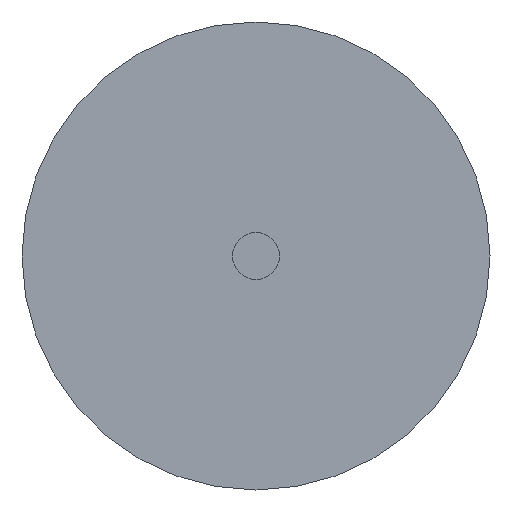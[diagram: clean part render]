
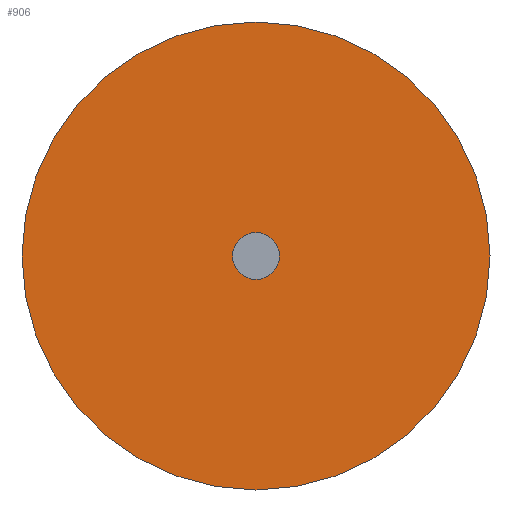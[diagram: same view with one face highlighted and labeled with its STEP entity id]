
A CAD part, front view. The second image highlights one B-rep face of the part: STEP entity #906.
In plain terms, the highlighted planar face has unit normal (0, -1, 0).
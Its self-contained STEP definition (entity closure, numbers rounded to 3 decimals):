
#546=CARTESIAN_POINT('',(70.,-21.5,0.));
#547=VERTEX_POINT('',#546);
#563=CARTESIAN_POINT('',(-70.,-21.5,0.));
#564=VERTEX_POINT('',#563);
#571=CARTESIAN_POINT('',(0.0,-21.5,0.));
#572=DIRECTION('',(0.0,-1.0,0.0));
#573=DIRECTION('',(1.0,0.0,0.0));
#574=AXIS2_PLACEMENT_3D('',#571,#572,#573);
#575=CIRCLE('',#574,70.);
#576=EDGE_CURVE('',#547,#564,#575,.T.);
#680=CARTESIAN_POINT('',(7.,-21.5,0.));
#681=VERTEX_POINT('',#680);
#706=CARTESIAN_POINT('',(-7.,-21.5,0.));
#707=VERTEX_POINT('',#706);
#714=CARTESIAN_POINT('',(0.0,-21.5,0.));
#715=DIRECTION('',(0.0,-1.0,0.0));
#716=DIRECTION('',(1.0,0.0,0.0));
#717=AXIS2_PLACEMENT_3D('',#714,#715,#716);
#718=CIRCLE('',#717,7.);
#719=EDGE_CURVE('',#707,#681,#718,.T.);
#798=CARTESIAN_POINT('',(0.0,-21.5,0.));
#799=DIRECTION('',(0.0,-1.0,0.0));
#800=DIRECTION('',(1.0,0.0,0.0));
#801=AXIS2_PLACEMENT_3D('',#798,#799,#800);
#802=CIRCLE('',#801,7.);
#803=EDGE_CURVE('',#681,#707,#802,.T.);
#881=CARTESIAN_POINT('',(0.0,-21.5,0.));
#882=DIRECTION('',(0.0,-1.0,0.0));
#883=DIRECTION('',(1.0,0.0,0.0));
#884=AXIS2_PLACEMENT_3D('',#881,#882,#883);
#885=CIRCLE('',#884,70.);
#886=EDGE_CURVE('',#564,#547,#885,.T.);
#893=CARTESIAN_POINT('',(38.5,-21.5,0.));
#894=DIRECTION('',(0.0,-1.0,0.0));
#895=DIRECTION('',(0.0,0.0,-1.0));
#896=AXIS2_PLACEMENT_3D('',#893,#894,#895);
#897=PLANE('',#896);
#898=ORIENTED_EDGE('',*,*,#576,.T.);
#899=ORIENTED_EDGE('',*,*,#886,.T.);
#900=EDGE_LOOP('',(#898,#899));
#901=FACE_OUTER_BOUND('',#900,.T.);
#902=ORIENTED_EDGE('',*,*,#803,.F.);
#903=ORIENTED_EDGE('',*,*,#719,.F.);
#904=EDGE_LOOP('',(#902,#903));
#905=FACE_BOUND('',#904,.T.);
#906=ADVANCED_FACE('',(#901,#905),#897,.T.);
